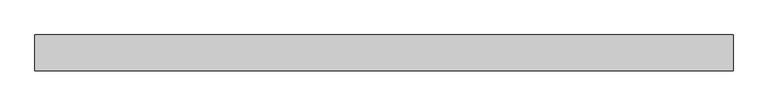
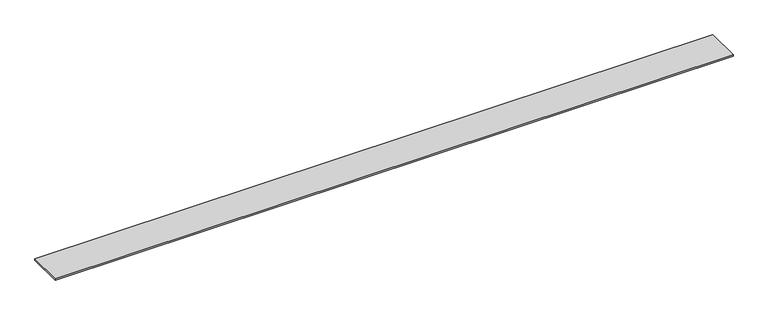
"""IFC4 building model written with IfcOpenShell, lengths in millimetres: furniture geometry, Geiger_GeigerOneCasegoods_WallTopTrimDoubleSidedWall : 72Wx3.75Dx0.125H."""

from ifc_helpers import new_model, si_unit, origin, origin_with_axes, place, context, project, spatial, polyline, outline, extrude, source, transform, mapped, element, save


def furniture_0ab8890e(model_context):
    return source(origin(), model_context, "Body", "SweptSolid", [
        extrude(outline(polyline([(1828.8, -46.99), (0.0, -46.99), (0.0, 46.99), (1828.8, 46.99), (1828.8, -46.99)])), origin_with_axes(), (0.0, 0.0, 1.0), 3.2004),
    ])


if __name__ == "__main__":
    model = new_model("IFC4")
    model_context = context("Model", 3, world=origin())
    ifc_project = project(units=[si_unit("LENGTHUNIT", "METRE", prefix="MILLI")], contexts=[model_context])
    site = spatial("IfcSite", under=ifc_project)
    building = spatial("IfcBuilding", under=site)
    placement = place(None, origin())
    furniture_shape = furniture_0ab8890e(model_context)
    element("IfcFurniture", 1, ObjectType="Geiger_GeigerOneCasegoods_WallTopTrimDoubleSidedWall : 72Wx3.75Dx0.125H", at=placement, inside=building, context=model_context, shape_type="MappedRepresentation", body=[
        mapped(furniture_shape, transform((0.0, 0.0, 0.0), x_axis=(1.0, 0.0, 0.0), y_axis=(0.0, 1.0, 0.0), z_axis=(0.0, 0.0, 1.0))),
    ])
    save(model, "model.ifc")
